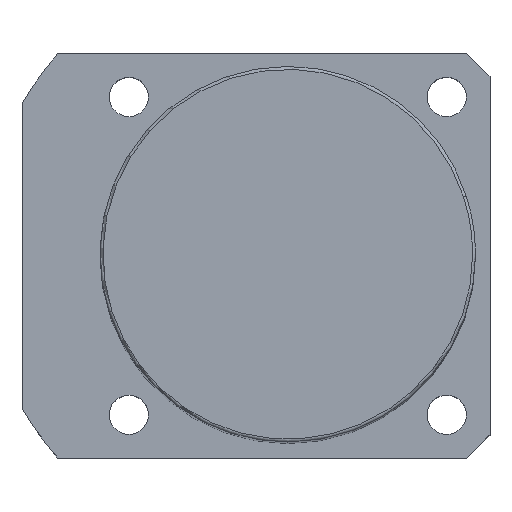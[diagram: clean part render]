
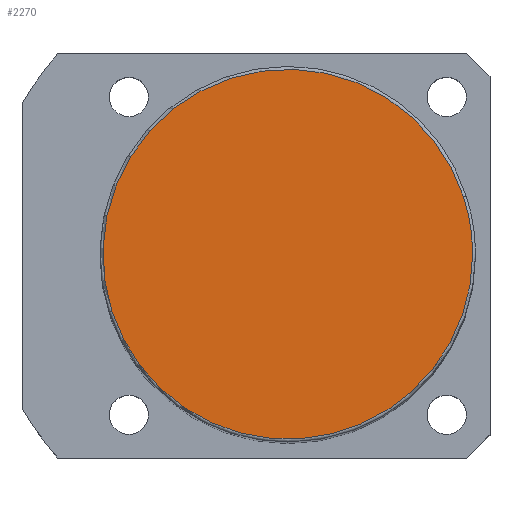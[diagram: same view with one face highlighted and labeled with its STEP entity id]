
A CAD part, top view. The second image highlights one B-rep face of the part: STEP entity #2270.
In plain terms, the highlighted planar face has unit normal (0, 0, 1).
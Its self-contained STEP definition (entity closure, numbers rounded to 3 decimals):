
#2236=CARTESIAN_POINT('',(32.0,0.0,176.0));
#2237=VERTEX_POINT('',#2236);
#2238=CARTESIAN_POINT('',(30.434,9.889,176.0));
#2239=VERTEX_POINT('',#2238);
#2240=CARTESIAN_POINT('',(0.0,0.0,176.0));
#2241=DIRECTION('',(0.0,0.0,1.0));
#2242=DIRECTION('',(1.0,0.0,0.0));
#2243=AXIS2_PLACEMENT_3D('',#2240,#2241,#2242);
#2244=CIRCLE('',#2243,32.0);
#2245=EDGE_CURVE('no 2126',#2237,#2239,#2244,.T.);
#2246=ORIENTED_EDGE('',*,*,#2245,.T.);
#2247=CARTESIAN_POINT('',(-30.434,-9.889,176.0));
#2248=VERTEX_POINT('',#2247);
#2249=CARTESIAN_POINT('',(0.0,0.0,176.0));
#2250=DIRECTION('',(0.0,0.0,1.0));
#2251=DIRECTION('',(1.0,0.0,0.0));
#2252=AXIS2_PLACEMENT_3D('',#2249,#2250,#2251);
#2253=CIRCLE('',#2252,32.0);
#2254=EDGE_CURVE('no 2132',#2239,#2248,#2253,.T.);
#2255=ORIENTED_EDGE('',*,*,#2254,.T.);
#2256=CARTESIAN_POINT('',(0.0,0.0,176.0));
#2257=DIRECTION('',(0.0,0.0,1.0));
#2258=DIRECTION('',(1.0,0.0,0.0));
#2259=AXIS2_PLACEMENT_3D('',#2256,#2257,#2258);
#2260=CIRCLE('',#2259,32.0);
#2261=EDGE_CURVE('no 2136',#2248,#2237,#2260,.T.);
#2262=ORIENTED_EDGE('',*,*,#2261,.T.);
#2263=EDGE_LOOP('',(#2246,#2255,#2262));
#2264=FACE_OUTER_BOUND('',#2263,.T.);
#2265=CARTESIAN_POINT('',(0.0,0.0,176.0));
#2266=DIRECTION('',(0.0,0.0,1.0));
#2267=DIRECTION('',(1.0,0.0,0.0));
#2268=AXIS2_PLACEMENT_3D('',#2265,#2266,#2267);
#2269=PLANE('',#2268);
#2270=ADVANCED_FACE('no 2117',(#2264),#2269,.T.);
